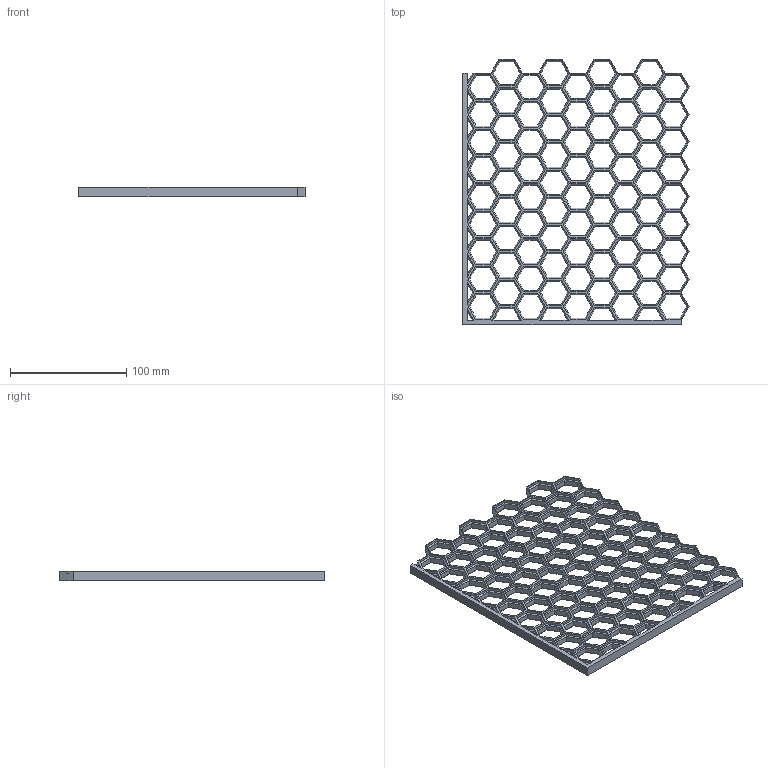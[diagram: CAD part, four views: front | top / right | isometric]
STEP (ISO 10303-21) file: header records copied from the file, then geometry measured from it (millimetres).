
FILE_DESCRIPTION(/* description */ (''),/* implementation_level */ '2;1');
FILE_NAME(/* name */ 'wall-honeycomb sortierseytem v1.step',/* time_stamp */ '2023-07-05T03:56:59+02:00',/* author */ (''),/* organization */ (''),/* preprocessor_version */ 'ST-DEVELOPER v19.2',/* originating_system */ 'Autodesk Translation Framework v12.6.0.85',/* authorisation */ '');
FILE_SCHEMA (('AUTOMOTIVE_DESIGN { 1 0 10303 214 3 1 1 }'));
Length unit declared in the file: millimetre
Products named in the file (1): wall-honeycomb sortierseytem
Bounding box: 194.36 x 227.8 x 8 mm (x, y, z)
Volume: 88954.3 mm3; surface area: 79297.8 mm2
Topology: 1 solids, 1 shells, 2120 faces, 4848 edges, 2730 vertices
Faces by surface type: plane 2120
Entity records: 56780 total; most frequent: CARTESIAN_POINT 9699, ORIENTED_EDGE 9696, DIRECTION 9090, LINE 4848, VECTOR 4848, EDGE_CURVE 4848, VERTEX_POINT 2730, EDGE_LOOP 2308
